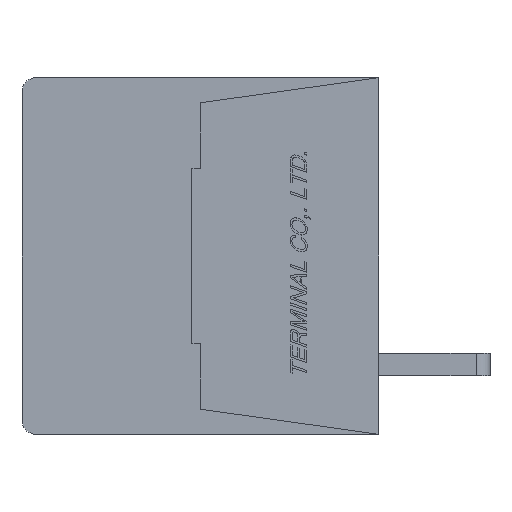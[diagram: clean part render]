
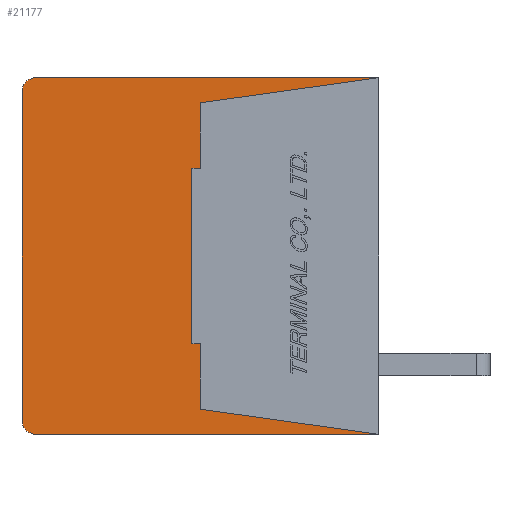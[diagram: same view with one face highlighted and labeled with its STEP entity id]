
A CAD part, left-side view. The second image highlights one B-rep face of the part: STEP entity #21177.
In plain terms, the highlighted planar face has unit normal (-1, 0, 0).
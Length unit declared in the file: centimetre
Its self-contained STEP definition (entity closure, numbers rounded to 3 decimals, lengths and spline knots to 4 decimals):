
#1109=CIRCLE('',#36160,0.05);
#1110=CIRCLE('',#36163,0.05);
#1949=VERTEX_POINT('',#29637);
#1950=VERTEX_POINT('',#29639);
#1951=VERTEX_POINT('',#29643);
#1952=VERTEX_POINT('',#29647);
#1953=VERTEX_POINT('',#29651);
#1954=VERTEX_POINT('',#29655);
#1955=VERTEX_POINT('',#29659);
#1956=VERTEX_POINT('',#29661);
#1957=VERTEX_POINT('',#29663);
#1958=VERTEX_POINT('',#29665);
#1959=VERTEX_POINT('',#29667);
#1960=VERTEX_POINT('',#29669);
#4204=VECTOR('',#24507,1.);
#4208=VECTOR('',#24516,1.);
#4211=VECTOR('',#24524,1.);
#4212=VECTOR('',#24526,1.);
#4213=VECTOR('',#24527,1.);
#4214=VECTOR('',#24528,1.);
#4215=VECTOR('',#24529,1.);
#4216=VECTOR('',#24530,1.);
#4217=VECTOR('',#24531,1.);
#4218=VECTOR('',#24532,1.);
#6701=LINE('',#29638,#4204);
#6705=LINE('',#29648,#4208);
#6708=LINE('',#29656,#4211);
#6709=LINE('',#29658,#4212);
#6710=LINE('',#29660,#4213);
#6711=LINE('',#29662,#4214);
#6712=LINE('',#29664,#4215);
#6713=LINE('',#29666,#4216);
#6714=LINE('',#29668,#4217);
#6715=LINE('',#29670,#4218);
#9484=EDGE_CURVE('',#1950,#1949,#6701,.T.);
#9487=EDGE_CURVE('',#1951,#1949,#1109,.T.);
#9489=EDGE_CURVE('',#1951,#1952,#6705,.T.);
#9491=EDGE_CURVE('',#1953,#1952,#1110,.T.);
#9493=EDGE_CURVE('',#1953,#1954,#6708,.T.);
#9494=EDGE_CURVE('',#1955,#1950,#6709,.T.);
#9495=EDGE_CURVE('',#1954,#1956,#6710,.T.);
#9496=EDGE_CURVE('',#1956,#1957,#6711,.T.);
#9497=EDGE_CURVE('',#1957,#1958,#6712,.T.);
#9498=EDGE_CURVE('',#1958,#1959,#6713,.T.);
#9499=EDGE_CURVE('',#1959,#1960,#6714,.T.);
#9500=EDGE_CURVE('',#1960,#1955,#6715,.T.);
#13848=ORIENTED_EDGE('',*,*,#9494,.T.);
#13849=ORIENTED_EDGE('',*,*,#9484,.T.);
#13850=ORIENTED_EDGE('',*,*,#9487,.F.);
#13851=ORIENTED_EDGE('',*,*,#9489,.T.);
#13852=ORIENTED_EDGE('',*,*,#9491,.F.);
#13853=ORIENTED_EDGE('',*,*,#9493,.T.);
#13854=ORIENTED_EDGE('',*,*,#9495,.T.);
#13855=ORIENTED_EDGE('',*,*,#9496,.T.);
#13856=ORIENTED_EDGE('',*,*,#9497,.T.);
#13857=ORIENTED_EDGE('',*,*,#9498,.T.);
#13858=ORIENTED_EDGE('',*,*,#9499,.T.);
#13859=ORIENTED_EDGE('',*,*,#9500,.T.);
#18457=EDGE_LOOP('',(#13848,#13849,#13850,#13851,#13852,#13853,#13854,#13855,
#13856,#13857,#13858,#13859));
#19848=FACE_BOUND('',#18457,.T.);
#21177=ADVANCED_FACE('',(#19848),#22312,.F.);
#22312=PLANE('',#36165);
#24507=DIRECTION('',(0.,1.,0.));
#24512=DIRECTION('',(1.,0.,0.));
#24513=DIRECTION('',(0.,0.,-0.05));
#24516=DIRECTION('',(0.,0.,-1.));
#24520=DIRECTION('',(1.,0.,0.));
#24521=DIRECTION('',(0.,0.,-0.05));
#24524=DIRECTION('',(0.,-1.,0.));
#24525=DIRECTION('',(1.,0.,0.));
#24526=DIRECTION('',(0.,-0.99,0.139));
#24527=DIRECTION('',(0.,0.99,0.139));
#24528=DIRECTION('',(0.,0.,1.));
#24529=DIRECTION('',(0.,1.,0.));
#24530=DIRECTION('',(0.,0.,1.));
#24531=DIRECTION('',(0.,-1.,0.));
#24532=DIRECTION('',(0.,0.,1.));
#29637=CARTESIAN_POINT('',(-0.889,1.23,0.64));
#29638=CARTESIAN_POINT('',(-0.889,0.,0.64));
#29639=CARTESIAN_POINT('',(-0.889,0.,0.64));
#29643=CARTESIAN_POINT('',(-0.889,1.28,0.59));
#29644=CARTESIAN_POINT('',(-0.889,1.23,0.59));
#29647=CARTESIAN_POINT('',(-0.889,1.28,-0.59));
#29648=CARTESIAN_POINT('',(-0.889,1.28,0.59));
#29651=CARTESIAN_POINT('',(-0.889,1.23,-0.64));
#29652=CARTESIAN_POINT('',(-0.889,1.23,-0.59));
#29655=CARTESIAN_POINT('',(-0.889,0.,-0.64));
#29656=CARTESIAN_POINT('',(-0.889,1.23,-0.64));
#29657=CARTESIAN_POINT('',(-0.889,0.6345,0.));
#29658=CARTESIAN_POINT('',(-0.889,0.64,0.55));
#29659=CARTESIAN_POINT('',(-0.889,0.64,0.55));
#29660=CARTESIAN_POINT('',(-0.889,0.,-0.64));
#29661=CARTESIAN_POINT('',(-0.889,0.64,-0.55));
#29662=CARTESIAN_POINT('',(-0.889,0.64,-0.55));
#29663=CARTESIAN_POINT('',(-0.889,0.64,-0.315));
#29664=CARTESIAN_POINT('',(-0.889,0.64,-0.315));
#29665=CARTESIAN_POINT('',(-0.889,0.67,-0.315));
#29666=CARTESIAN_POINT('',(-0.889,0.67,-0.315));
#29667=CARTESIAN_POINT('',(-0.889,0.67,0.315));
#29668=CARTESIAN_POINT('',(-0.889,0.67,0.315));
#29669=CARTESIAN_POINT('',(-0.889,0.64,0.315));
#29670=CARTESIAN_POINT('',(-0.889,0.64,0.315));
#36160=AXIS2_PLACEMENT_3D('',#29644,#24512,#24513);
#36163=AXIS2_PLACEMENT_3D('',#29652,#24520,#24521);
#36165=AXIS2_PLACEMENT_3D('',#29657,#24525,$);
